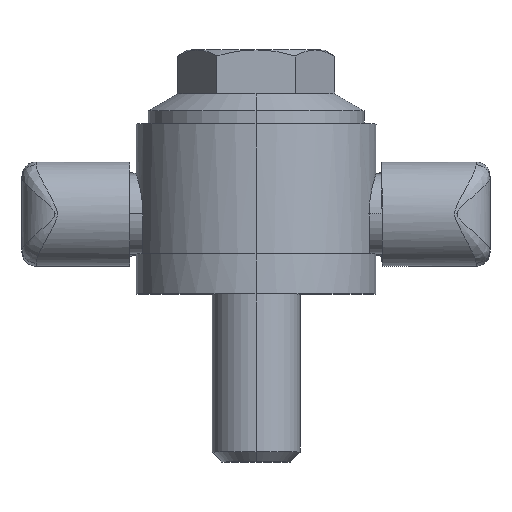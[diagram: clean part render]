
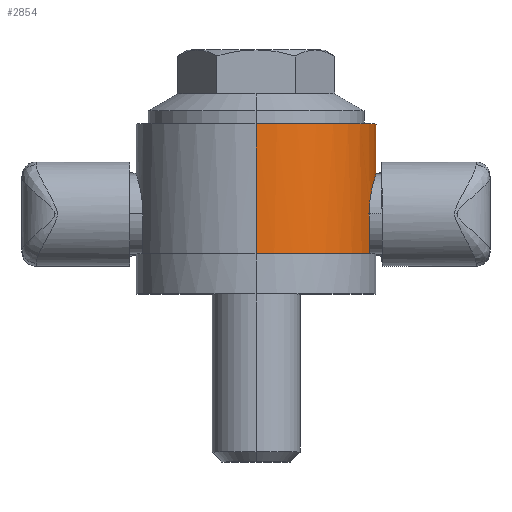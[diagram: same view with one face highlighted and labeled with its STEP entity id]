
A CAD part, top view. The second image highlights one B-rep face of the part: STEP entity #2854.
In plain terms, the highlighted cylindrical face has radius 30 mm (diameter 60 mm), a partial arc.
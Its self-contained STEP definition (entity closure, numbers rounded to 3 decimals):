
#2835 = VERTEX_POINT ( 'NONE', #5462 ) ;
#2836 = VERTEX_POINT ( 'NONE', #5461 ) ;
#2837 = ORIENTED_EDGE ( 'NONE', *, *, #2838, .T. ) ;
#2838 = EDGE_CURVE ( 'NONE', #2835, #2876, #5460, .T. ) ;
#2854 = ADVANCED_FACE ( 'NONE', ( #5549 ), #5548, .T. ) ;
#2876 = VERTEX_POINT ( 'NONE', #5519 ) ;
#2880 = EDGE_LOOP ( 'NONE', ( #2881, #2837, #2978, #3119, #3035, #2970, #2973, #2905 ) ) ;
#2881 = ORIENTED_EDGE ( 'NONE', *, *, #2882, .F. ) ;
#2882 = EDGE_CURVE ( 'NONE', #2835, #2836, #5512, .T. ) ;
#2905 = ORIENTED_EDGE ( 'NONE', *, *, #2906, .F. ) ;
#2906 = EDGE_CURVE ( 'NONE', #2836, #2976, #5830, .T. ) ;
#2970 = ORIENTED_EDGE ( 'NONE', *, *, #2971, .T. ) ;
#2971 = EDGE_CURVE ( 'NONE', #3037, #2972, #5807, .T. ) ;
#2972 = VERTEX_POINT ( 'NONE', #5803 ) ;
#2973 = ORIENTED_EDGE ( 'NONE', *, *, #2975, .F. ) ;
#2975 = EDGE_CURVE ( 'NONE', #2976, #2972, #5802, .T. ) ;
#2976 = VERTEX_POINT ( 'NONE', #5797 ) ;
#2978 = ORIENTED_EDGE ( 'NONE', *, *, #2979, .F. ) ;
#2979 = EDGE_CURVE ( 'NONE', #2980, #2876, #5731, .T. ) ;
#2980 = VERTEX_POINT ( 'NONE', #5726 ) ;
#3033 = EDGE_CURVE ( 'NONE', #2980, #3120, #6102, .T. ) ;
#3035 = ORIENTED_EDGE ( 'NONE', *, *, #3036, .T. ) ;
#3036 = EDGE_CURVE ( 'NONE', #3120, #3037, #6031, .T. ) ;
#3037 = VERTEX_POINT ( 'NONE', #6032 ) ;
#3119 = ORIENTED_EDGE ( 'NONE', *, *, #3033, .T. ) ;
#3120 = VERTEX_POINT ( 'NONE', #6040 ) ;
#5457 = DIRECTION ( 'NONE',  ( 0., -1., 0. ) ) ;
#5458 = VECTOR ( 'NONE', #5457, 1000. ) ;
#5459 = CARTESIAN_POINT ( 'NONE',  ( 0., 50., 30. ) ) ;
#5460 = LINE ( 'NONE', #5459, #5458 ) ;
#5461 = CARTESIAN_POINT ( 'NONE',  ( 0., 42.5, -30. ) ) ;
#5462 = CARTESIAN_POINT ( 'NONE',  ( 0., 42.5, 30. ) ) ;
#5508 = DIRECTION ( 'NONE',  ( 0., 0., 1. ) ) ;
#5509 = DIRECTION ( 'NONE',  ( 0., 1., 0. ) ) ;
#5510 = CARTESIAN_POINT ( 'NONE',  ( 0., 42.5, 0. ) ) ;
#5511 = AXIS2_PLACEMENT_3D ( 'NONE', #5510, #5509, #5508 ) ;
#5512 = CIRCLE ( 'NONE', #5511, 30. ) ;
#5519 = CARTESIAN_POINT ( 'NONE',  ( 0., 10., 30. ) ) ;
#5544 = DIRECTION ( 'NONE',  ( 0., 0., -1. ) ) ;
#5545 = DIRECTION ( 'NONE',  ( 0., -1., 0. ) ) ;
#5546 = CARTESIAN_POINT ( 'NONE',  ( 0., 50., 0. ) ) ;
#5547 = AXIS2_PLACEMENT_3D ( 'NONE', #5546, #5545, #5544 ) ;
#5548 = CYLINDRICAL_SURFACE ( 'NONE', #5547, 30. ) ;
#5549 = FACE_OUTER_BOUND ( 'NONE', #2880, .T. ) ;
#5726 = CARTESIAN_POINT ( 'NONE',  ( 28.284, 10., 10. ) ) ;
#5727 = DIRECTION ( 'NONE',  ( 0., 0., -1. ) ) ;
#5728 = DIRECTION ( 'NONE',  ( 0., -1., 0. ) ) ;
#5729 = CARTESIAN_POINT ( 'NONE',  ( 0., 10., 0. ) ) ;
#5730 = AXIS2_PLACEMENT_3D ( 'NONE', #5729, #5728, #5727 ) ;
#5731 = CIRCLE ( 'NONE', #5730, 30. ) ;
#5797 = CARTESIAN_POINT ( 'NONE',  ( 0., 10., -30. ) ) ;
#5798 = DIRECTION ( 'NONE',  ( 0., 0., -1. ) ) ;
#5799 = DIRECTION ( 'NONE',  ( 0., -1., 0. ) ) ;
#5800 = CARTESIAN_POINT ( 'NONE',  ( 0., 10., 0. ) ) ;
#5801 = AXIS2_PLACEMENT_3D ( 'NONE', #5800, #5799, #5798 ) ;
#5802 = CIRCLE ( 'NONE', #5801, 30. ) ;
#5803 = CARTESIAN_POINT ( 'NONE',  ( 28.284, 10., -10. ) ) ;
#5804 = DIRECTION ( 'NONE',  ( 0., -1., 0. ) ) ;
#5805 = VECTOR ( 'NONE', #5804, 1000. ) ;
#5806 = CARTESIAN_POINT ( 'NONE',  ( 28.284, 50., -10. ) ) ;
#5807 = LINE ( 'NONE', #5806, #5805 ) ;
#5827 = DIRECTION ( 'NONE',  ( 0., -1., 0. ) ) ;
#5828 = VECTOR ( 'NONE', #5827, 1000. ) ;
#5829 = CARTESIAN_POINT ( 'NONE',  ( 0., 50., -30. ) ) ;
#5830 = LINE ( 'NONE', #5829, #5828 ) ;
#5913 = CARTESIAN_POINT ( 'NONE',  ( 29.429, 28.131, -5.83 ) ) ;
#5914 = CARTESIAN_POINT ( 'NONE',  ( 29.531, 28.492, -5.291 ) ) ;
#5915 = CARTESIAN_POINT ( 'NONE',  ( 29.58, 28.659, -5.013 ) ) ;
#5916 = CARTESIAN_POINT ( 'NONE',  ( 29.671, 28.967, -4.438 ) ) ;
#5917 = CARTESIAN_POINT ( 'NONE',  ( 29.715, 29.109, -4.14 ) ) ;
#5918 = CARTESIAN_POINT ( 'NONE',  ( 29.832, 29.488, -3.227 ) ) ;
#5919 = CARTESIAN_POINT ( 'NONE',  ( 29.894, 29.678, -2.601 ) ) ;
#5920 = CARTESIAN_POINT ( 'NONE',  ( 29.978, 29.935, -1.315 ) ) ;
#5921 = CARTESIAN_POINT ( 'NONE',  ( 30., 30.001, -0.647 ) ) ;
#5922 = CARTESIAN_POINT ( 'NONE',  ( 30., 29.999, 0.668 ) ) ;
#5923 = CARTESIAN_POINT ( 'NONE',  ( 29.978, 29.934, 1.32 ) ) ;
#5924 = CARTESIAN_POINT ( 'NONE',  ( 29.914, 29.74, 2.29 ) ) ;
#5925 = CARTESIAN_POINT ( 'NONE',  ( 29.888, 29.658, 2.613 ) ) ;
#5926 = CARTESIAN_POINT ( 'NONE',  ( 29.826, 29.466, 3.241 ) ) ;
#5927 = CARTESIAN_POINT ( 'NONE',  ( 29.791, 29.355, 3.548 ) ) ;
#5928 = CARTESIAN_POINT ( 'NONE',  ( 29.674, 28.979, 4.449 ) ) ;
#5929 = CARTESIAN_POINT ( 'NONE',  ( 29.582, 28.672, 5.023 ) ) ;
#5930 = CARTESIAN_POINT ( 'NONE',  ( 29.376, 27.94, 6.114 ) ) ;
#5931 = CARTESIAN_POINT ( 'NONE',  ( 29.266, 27.528, 6.614 ) ) ;
#5932 = CARTESIAN_POINT ( 'NONE',  ( 29.099, 26.841, 7.301 ) ) ;
#5933 = CARTESIAN_POINT ( 'NONE',  ( 29.043, 26.601, 7.519 ) ) ;
#5934 = CARTESIAN_POINT ( 'NONE',  ( 28.933, 26.097, 7.933 ) ) ;
#5935 = CARTESIAN_POINT ( 'NONE',  ( 28.878, 25.833, 8.129 ) ) ;
#5936 = CARTESIAN_POINT ( 'NONE',  ( 28.722, 25.021, 8.673 ) ) ;
#6012 = CARTESIAN_POINT ( 'NONE',  ( 28.284, 20., -10. ) ) ;
#6013 = CARTESIAN_POINT ( 'NONE',  ( 28.284, 20.333, -10. ) ) ;
#6014 = CARTESIAN_POINT ( 'NONE',  ( 28.29, 20.664, -9.983 ) ) ;
#6015 = CARTESIAN_POINT ( 'NONE',  ( 28.313, 21.324, -9.917 ) ) ;
#6016 = CARTESIAN_POINT ( 'NONE',  ( 28.331, 21.654, -9.868 ) ) ;
#6017 = CARTESIAN_POINT ( 'NONE',  ( 28.398, 22.624, -9.672 ) ) ;
#6018 = CARTESIAN_POINT ( 'NONE',  ( 28.464, 23.247, -9.48 ) ) ;
#6019 = CARTESIAN_POINT ( 'NONE',  ( 28.626, 24.45, -8.979 ) ) ;
#6020 = CARTESIAN_POINT ( 'NONE',  ( 28.724, 25.034, -8.665 ) ) ;
#6021 = CARTESIAN_POINT ( 'NONE',  ( 28.933, 26.113, -7.94 ) ) ;
#6022 = CARTESIAN_POINT ( 'NONE',  ( 29.044, 26.613, -7.53 ) ) ;
#6023 = CARTESIAN_POINT ( 'NONE',  ( 29.211, 27.303, -6.839 ) ) ;
#6024 = CARTESIAN_POINT ( 'NONE',  ( 29.267, 27.524, -6.595 ) ) ;
#6026 = CARTESIAN_POINT ( 'NONE',  ( 29.376, 27.937, -6.091 ) ) ;
#6031 = B_SPLINE_CURVE_WITH_KNOTS ( 'NONE', 3,
 ( #6098, #6097, #6096, #6095, #6094, #6093, #6092, #6091, #5936, #5935, #5934, #5933, #5932, #5931, #5930, #5929, #5928, #5927, #5926, #5925, #5924, #5923, #5922, #5921, #5920, #5919, #5918, #5917, #5916, #5915, #5914, #5913, #6026, #6024, #6023, #6022, #6021, #6020, #6019, #6018, #6017, #6016, #6015, #6014, #6013, #6012 ),
 .UNSPECIFIED., .F., .F.,
 ( 4, 2, 2, 2, 2, 2, 2, 2, 2, 2, 2, 2, 2, 2, 2, 2, 2, 2, 2, 2, 2, 2, 4 ),
 ( 0., 0.002, 0.003, 0.004, 0.006, 0.007, 0.008, 0.01, 0.012, 0.013, 0.014, 0.016, 0.018, 0.02, 0.021, 0.022, 0.023, 0.024, 0.026, 0.028, 0.03, 0.03, 0.031 ),
 .UNSPECIFIED. ) ;
#6032 = CARTESIAN_POINT ( 'NONE',  ( 28.284, 20., -10. ) ) ;
#6040 = CARTESIAN_POINT ( 'NONE',  ( 28.284, 20., 10. ) ) ;
#6091 = CARTESIAN_POINT ( 'NONE',  ( 28.626, 24.449, 8.98 ) ) ;
#6092 = CARTESIAN_POINT ( 'NONE',  ( 28.504, 23.543, 9.357 ) ) ;
#6093 = CARTESIAN_POINT ( 'NONE',  ( 28.466, 23.231, 9.469 ) ) ;
#6094 = CARTESIAN_POINT ( 'NONE',  ( 28.402, 22.6, 9.662 ) ) ;
#6095 = CARTESIAN_POINT ( 'NONE',  ( 28.374, 22.282, 9.742 ) ) ;
#6096 = CARTESIAN_POINT ( 'NONE',  ( 28.308, 21.319, 9.934 ) ) ;
#6097 = CARTESIAN_POINT ( 'NONE',  ( 28.284, 20.666, 10. ) ) ;
#6098 = CARTESIAN_POINT ( 'NONE',  ( 28.284, 20., 10. ) ) ;
#6099 = DIRECTION ( 'NONE',  ( 0., 1., 0. ) ) ;
#6100 = VECTOR ( 'NONE', #6099, 1000. ) ;
#6101 = CARTESIAN_POINT ( 'NONE',  ( 28.284, 50., 10. ) ) ;
#6102 = LINE ( 'NONE', #6101, #6100 ) ;
